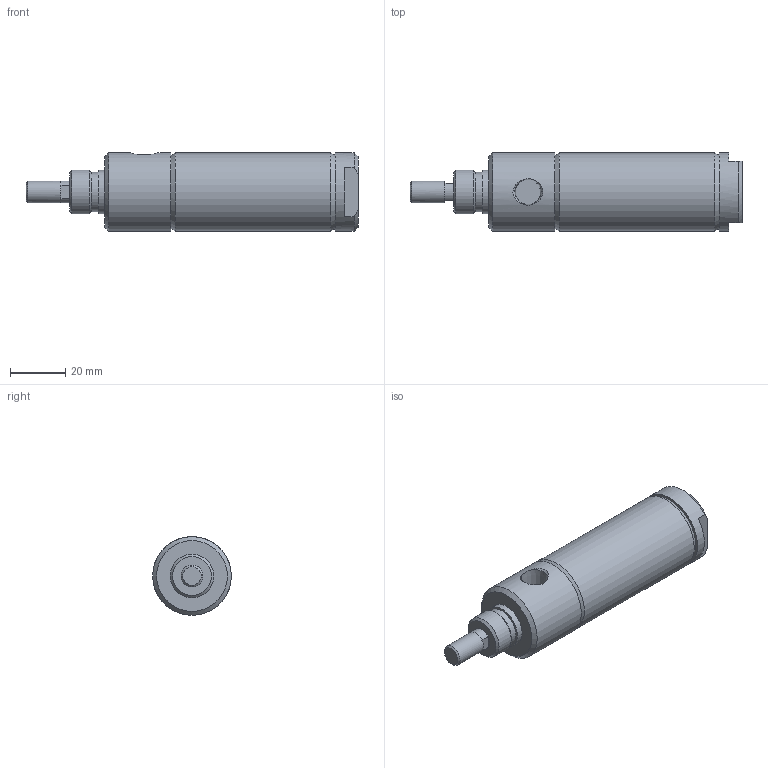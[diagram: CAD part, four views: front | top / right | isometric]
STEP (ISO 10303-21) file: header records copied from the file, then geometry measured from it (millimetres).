
FILE_DESCRIPTION( ( 'STEP AP214' ), '1' );
FILE_NAME( 'p:/temp/worker_461/temp/exporttempdir_3824_6_Ki9Cs/format_0/1062D01-01A.stp', '2020-05-07T14:47:52', ( 'License CC BY-ND 4.0' ), ( 'CADENAS' ), ' ', 'PARTsolutions', ' ' );
FILE_SCHEMA( ( 'AUTOMOTIVE_DESIGN { 1 0 10303 214 1 1 1 1 }' ) );
Length unit declared in the file: inch
Products named in the file (3): 1062D01-01A; _1062D01-01A-001062D01-01A-0000A00A0b; _1062D01-01A-001062D01-01A-0000A00A0r
Assembly tree (2 placements, depth 2):
  1062D01-01A
    _1062D01-01A-001062D01-01A-0000A00A0b
    _1062D01-01A-001062D01-01A-0000A00A0r
Bounding box: 120.65 x 28.57 x 28.57 mm (x, y, z)
Volume: 46600.9 mm3; surface area: 23268.6 mm2
Topology: 2 solids, 2 shells, 51 faces, 99 edges, 62 vertices
Faces by surface type: plane 26, cone 13, cylinder 12
Full cylindrical faces by diameter (mm): 7.938 x1, 7.95 x3, 14.196 x1, 15.85 x1, 15.875 x1, 26.987 x2, 28.397 x1, 28.575 x2
Entity records: 1700 total; most frequent: CARTESIAN_POINT 278, DIRECTION 220, ORIENTED_EDGE 148, AXIS2_PLACEMENT_3D 100, EDGE_LOOP 82, EDGE_CURVE 74, FACE_OUTER_BOUND 63, VERTEX_POINT 58
